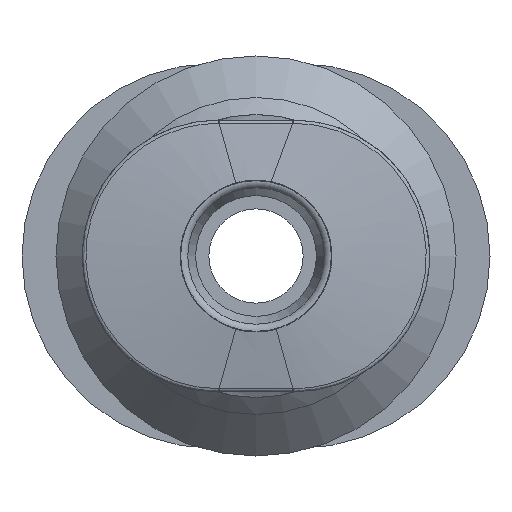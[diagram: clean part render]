
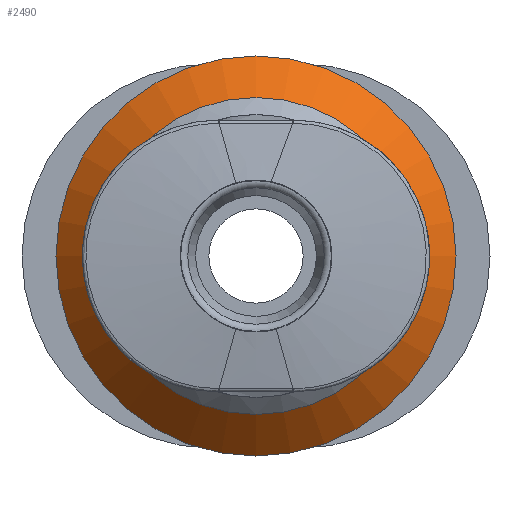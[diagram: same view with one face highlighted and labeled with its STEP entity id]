
A CAD part, front view. The second image highlights one B-rep face of the part: STEP entity #2490.
In plain terms, the highlighted conical face has half-angle 45 degrees and reference radius 4.75 mm.
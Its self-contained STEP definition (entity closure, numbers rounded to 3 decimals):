
#2456=CARTESIAN_POINT('',(-4.2,3.225,0.0));
#2457=VERTEX_POINT('',#2456);
#2458=CARTESIAN_POINT('',(0.0,3.225,0.0));
#2459=DIRECTION('',(0.0,1.0,0.0));
#2460=DIRECTION('',(-1.0,0.0,0.0));
#2461=AXIS2_PLACEMENT_3D('',#2458,#2459,#2460);
#2462=CIRCLE('',#2461,4.2);
#2463=EDGE_CURVE('',#2457,#2457,#2462,.T.);
#2471=CARTESIAN_POINT('',(0.0,3.775,0.0));
#2472=DIRECTION('',(0.0,1.0,0.0));
#2473=DIRECTION('',(-1.0,0.0,0.0));
#2474=AXIS2_PLACEMENT_3D('',#2471,#2472,#2473);
#2475=CONICAL_SURFACE('',#2474,4.75,45.);
#2476=CARTESIAN_POINT('',(-5.3,4.325,0.0));
#2477=VERTEX_POINT('',#2476);
#2478=CARTESIAN_POINT('',(0.0,4.325,0.0));
#2479=DIRECTION('',(0.0,1.0,0.0));
#2480=DIRECTION('',(-1.0,0.0,0.0));
#2481=AXIS2_PLACEMENT_3D('',#2478,#2479,#2480);
#2482=CIRCLE('',#2481,5.3);
#2483=EDGE_CURVE('',#2477,#2477,#2482,.T.);
#2484=ORIENTED_EDGE('',*,*,#2483,.F.);
#2485=EDGE_LOOP('',(#2484));
#2486=FACE_OUTER_BOUND('',#2485,.T.);
#2487=ORIENTED_EDGE('',*,*,#2463,.T.);
#2488=EDGE_LOOP('',(#2487));
#2489=FACE_BOUND('',#2488,.T.);
#2490=ADVANCED_FACE('',(#2486,#2489),#2475,.T.);
